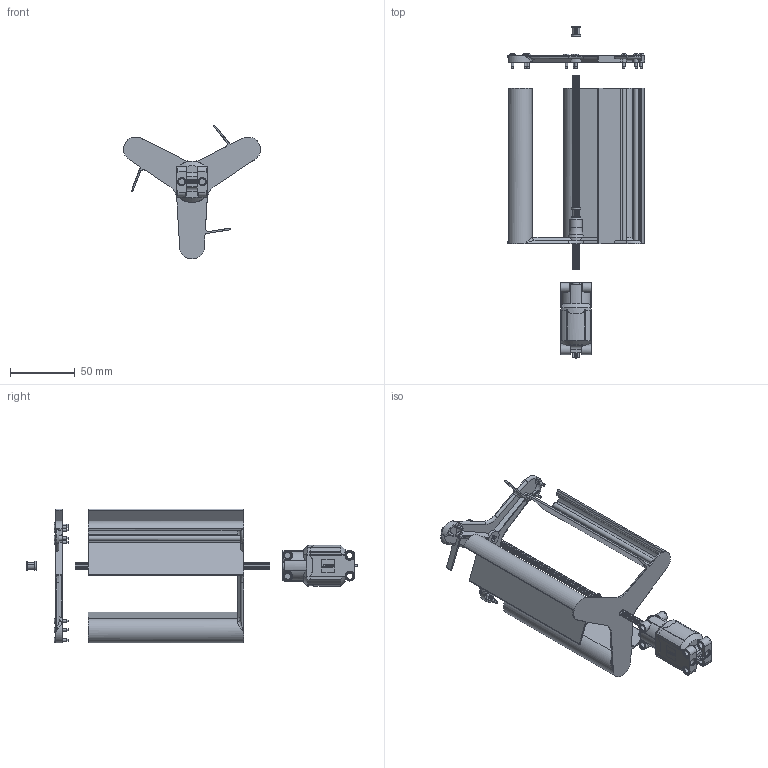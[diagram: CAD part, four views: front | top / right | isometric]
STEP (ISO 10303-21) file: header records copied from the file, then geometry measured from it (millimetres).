
FILE_DESCRIPTION(/* description */ (''),/* implementation_level */ '2;1');
FILE_NAME(/* name */ 'Assieme_Lenz.stp',/* time_stamp */ '2024-12-01T21:50:02+01:00',/* author */ ('R5800u'),/* organization */ (''),/* preprocessor_version */ 'ST-DEVELOPER v20',/* originating_system */ 'Autodesk Inventor 2025',/* authorisation */ '');
FILE_SCHEMA (('AUTOMOTIVE_DESIGN { 1 0 10303 214 3 1 1 }'));
Length unit declared in the file: millimetre
Products named in the file (7): Assieme1; stampa_lenz2a; stampa_lenz2a_MIR; ANSI/ASME B18.6.5M - M2x0,4 x 10, SPHTSTTM; albero_lego; Motor-L BF; 8258
Assembly tree (15 placements, depth 2):
  Assieme1
    stampa_lenz2a
    stampa_lenz2a_MIR
    ANSI/ASME B18.6.5M - M2x0,4 x 10, SPHTSTTM  x9
    albero_lego
    Motor-L BF
    8258  x2
Bounding box: 105.6 x 255.9 x 103.24 mm (x, y, z)
Volume: 88326.7 mm3; surface area: 81107.8 mm2
Topology: 15 solids, 15 shells, 1108 faces, 2864 edges, 1826 vertices
Faces by surface type: cylinder 420, plane 414, torus 156, bspline 62, cone 36, sphere 20
Full cylindrical faces by diameter (mm): 1.5 x9, 2 x27, 4 x9, 4.8 x14, 6 x12, 6.2 x2, 7.2 x2, 7.3 x1, 7.5 x9, 9.321 x1
Entity records: 37122 total; most frequent: CARTESIAN_POINT 12252, ORIENTED_EDGE 5048, DIRECTION 5039, EDGE_CURVE 2524, AXIS2_PLACEMENT_3D 1973, VERTEX_POINT 1616, LINE 1093, VECTOR 1093
